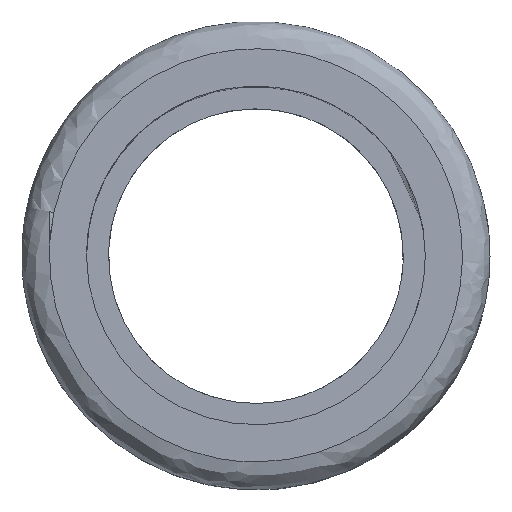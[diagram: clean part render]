
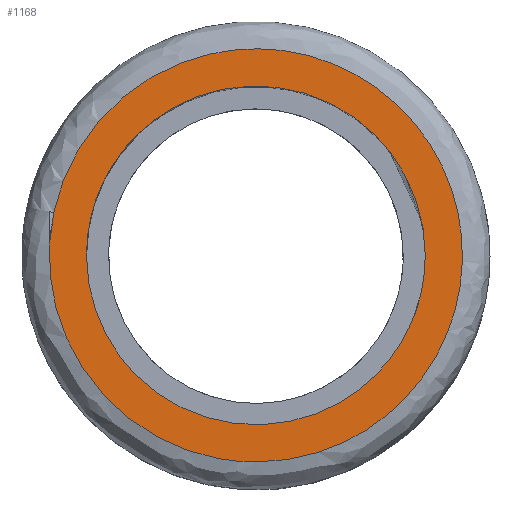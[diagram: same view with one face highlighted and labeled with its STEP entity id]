
A CAD part, top view. The second image highlights one B-rep face of the part: STEP entity #1168.
In plain terms, the highlighted free-form (B-spline) face has degree [1, 1] with [2, 2] control points.
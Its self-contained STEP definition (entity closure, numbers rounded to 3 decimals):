
#613 = CARTESIAN_POINT ('', (-6.147, 0.017, 0.998));
#614 = VERTEX_POINT ('', #613);
#615 = CARTESIAN_POINT ('', (6.02, -1.269, 1.007));
#616 = VERTEX_POINT ('', #615);
#617 = CARTESIAN_POINT ('', (-6.147, 0.017, 0.998));
#618 = CARTESIAN_POINT ('', (-6.169, -10.935, 1.04));
#619 = CARTESIAN_POINT ('', (4.077, -10.448, 1.041));
#620 = CARTESIAN_POINT ('', (6.02, -1.269, 1.007));
#621 = (
   BOUNDED_CURVE ()
   B_SPLINE_CURVE (3, (#617, #618, #619, #620), .UNSPECIFIED., .F., .U.)
   B_SPLINE_CURVE_WITH_KNOTS ((4, 4), (0., 1.), .UNSPECIFIED.)
   CURVE ()
   GEOMETRIC_REPRESENTATION_ITEM ()
   RATIONAL_B_SPLINE_CURVE ((0.83, 0.339, 0.396, 1.))
   REPRESENTATION_ITEM ('')
);
#622 = EDGE_CURVE ('', #614, #616, #621, .T.);
#633 = CARTESIAN_POINT ('', (6.153, -0.008, 1.002));
#634 = VERTEX_POINT ('', #633);
#635 = CARTESIAN_POINT ('', (6.02, -1.269, 1.007));
#636 = CARTESIAN_POINT ('', (6.105, -0.867, 1.005));
#637 = CARTESIAN_POINT ('', (6.152, -0.445, 1.004));
#638 = CARTESIAN_POINT ('', (6.153, -0.008, 1.002));
#639 = (
   BOUNDED_CURVE ()
   B_SPLINE_CURVE (3, (#635, #636, #637, #638), .UNSPECIFIED., .F., .U.)
   B_SPLINE_CURVE_WITH_KNOTS ((4, 4), (0., 1.), .UNSPECIFIED.)
   CURVE ()
   GEOMETRIC_REPRESENTATION_ITEM ()
   RATIONAL_B_SPLINE_CURVE ((1., 0.937, 0.881, 0.83))
   REPRESENTATION_ITEM ('')
);
#640 = EDGE_CURVE ('', #616, #634, #639, .T.);
#642 = CARTESIAN_POINT ('', (6.153, -0.008, 1.002));
#643 = CARTESIAN_POINT ('', (6.175, 10.944, 0.96));
#644 = CARTESIAN_POINT ('', (-4.071, 10.457, 0.959));
#645 = CARTESIAN_POINT ('', (-6.014, 1.278, 0.993));
#646 = CARTESIAN_POINT ('', (-6.099, 0.876, 0.995));
#647 = CARTESIAN_POINT ('', (-6.146, 0.454, 0.996));
#648 = CARTESIAN_POINT ('', (-6.147, 0.017, 0.998));
#649 = (
   BOUNDED_CURVE ()
   B_SPLINE_CURVE (3, (#642, #643, #644, #645, #646, #647, #648), .UNSPECIFIED., .F., .U.)
   B_SPLINE_CURVE_WITH_KNOTS ((4, 3, 4), (0., 0.906, 1.), .UNSPECIFIED.)
   CURVE ()
   GEOMETRIC_REPRESENTATION_ITEM ()
   RATIONAL_B_SPLINE_CURVE ((0.83, 0.339, 0.396, 1., 0.937, 0.881, 0.83))
   REPRESENTATION_ITEM ('')
);
#650 = EDGE_CURVE ('', #634, #614, #649, .T.);
#1041 = CARTESIAN_POINT ('', (-7.335, 1.557, 0.992));
#1042 = VERTEX_POINT ('', #1041);
#1043 = CARTESIAN_POINT ('', (-0.012, -7.496, 1.029));
#1044 = VERTEX_POINT ('', #1043);
#1045 = CARTESIAN_POINT ('', (-7.336, 1.558, 0.992));
#1046 = CARTESIAN_POINT ('', (-7.446, 1.036, 0.994));
#1047 = CARTESIAN_POINT ('', (-7.5, 0.504, 0.996));
#1048 = CARTESIAN_POINT ('', (-7.497, -0.041, 0.998));
#1049 = CARTESIAN_POINT ('', (-7.494, -0.58, 1.));
#1050 = CARTESIAN_POINT ('', (-7.435, -1.11, 1.002));
#1051 = CARTESIAN_POINT ('', (-7.318, -1.63, 1.004));
#1052 = CARTESIAN_POINT ('', (-7.198, -2.166, 1.006));
#1053 = CARTESIAN_POINT ('', (-7.02, -2.686, 1.008));
#1054 = CARTESIAN_POINT ('', (-6.784, -3.189, 1.01));
#1055 = CARTESIAN_POINT ('', (-6.538, -3.715, 1.012));
#1056 = CARTESIAN_POINT ('', (-6.234, -4.205, 1.014));
#1057 = CARTESIAN_POINT ('', (-5.873, -4.658, 1.016));
#1058 = CARTESIAN_POINT ('', (-5.506, -5.118, 1.018));
#1059 = CARTESIAN_POINT ('', (-5.094, -5.529, 1.019));
#1060 = CARTESIAN_POINT ('', (-4.637, -5.89, 1.021));
#1061 = CARTESIAN_POINT ('', (-4.183, -6.248, 1.022));
#1062 = CARTESIAN_POINT ('', (-3.691, -6.55, 1.024));
#1063 = CARTESIAN_POINT ('', (-3.161, -6.796, 1.025));
#1064 = CARTESIAN_POINT ('', (-2.16, -7.26, 1.027));
#1065 = CARTESIAN_POINT ('', (-1.11, -7.493, 1.028));
#1066 = CARTESIAN_POINT ('', (-0.012, -7.496, 1.029));
#1067 = B_SPLINE_CURVE_WITH_KNOTS ('', 3, (#1045, #1046, #1047, #1048, #1049, #1050, #1051, #1052, #1053, #1054, #1055, #1056, #1057, #1058, #1059, #1060, #1061, #1062, #1063, #1064, #1065, #1066), .UNSPECIFIED., .F., .U., (4, 3, 3, 3, 3, 3, 3, 4), (0., 0.125, 0.25, 0.375, 0.5, 0.625, 0.75, 1.), .UNSPECIFIED.);
#1068 = EDGE_CURVE ('', #1042, #1044, #1067, .T.);
#1084 = CARTESIAN_POINT ('', (0.018, 7.504, 0.971));
#1085 = VERTEX_POINT ('', #1084);
#1086 = CARTESIAN_POINT ('', (-7.335, 1.557, 0.992));
#1087 = CARTESIAN_POINT ('', (-6.673, 4.684, 0.98));
#1088 = CARTESIAN_POINT ('', (-4.16, 7.513, 0.97));
#1089 = CARTESIAN_POINT ('', (0.018, 7.504, 0.971));
#1090 = (
   BOUNDED_CURVE ()
   B_SPLINE_CURVE (3, (#1086, #1087, #1088, #1089), .UNSPECIFIED., .F., .U.)
   B_SPLINE_CURVE_WITH_KNOTS ((4, 4), (0., 1.), .UNSPECIFIED.)
   CURVE ()
   GEOMETRIC_REPRESENTATION_ITEM ()
   RATIONAL_B_SPLINE_CURVE ((0.957, 0.671, 0.513, 0.483))
   REPRESENTATION_ITEM ('')
);
#1091 = EDGE_CURVE ('', #1042, #1085, #1090, .T.);
#1093 = CARTESIAN_POINT ('', (-0.012, -7.496, 1.029));
#1094 = CARTESIAN_POINT ('', (0.94, -7.497, 1.029));
#1095 = CARTESIAN_POINT ('', (1.86, -7.324, 1.029));
#1096 = CARTESIAN_POINT ('', (2.75, -6.974, 1.027));
#1097 = CARTESIAN_POINT ('', (3.71, -6.597, 1.026));
#1098 = CARTESIAN_POINT ('', (4.559, -6.042, 1.025));
#1099 = CARTESIAN_POINT ('', (5.296, -5.309, 1.022));
#1100 = CARTESIAN_POINT ('', (6.027, -4.582, 1.019));
#1101 = CARTESIAN_POINT ('', (6.586, -3.735, 1.016));
#1102 = CARTESIAN_POINT ('', (6.971, -2.77, 1.013));
#1103 = CARTESIAN_POINT ('', (7.323, -1.888, 1.01));
#1104 = CARTESIAN_POINT ('', (7.5, -0.968, 1.006));
#1105 = CARTESIAN_POINT ('', (7.503, -0.011, 1.003));
#1106 = CARTESIAN_POINT ('', (7.505, 0.94, 0.999));
#1107 = CARTESIAN_POINT ('', (7.332, 1.86, 0.995));
#1108 = CARTESIAN_POINT ('', (6.982, 2.751, 0.992));
#1109 = CARTESIAN_POINT ('', (6.605, 3.712, 0.988));
#1110 = CARTESIAN_POINT ('', (6.05, 4.56, 0.985));
#1111 = CARTESIAN_POINT ('', (5.317, 5.297, 0.982));
#1112 = CARTESIAN_POINT ('', (4.589, 6.029, 0.979));
#1113 = CARTESIAN_POINT ('', (3.743, 6.587, 0.976));
#1114 = CARTESIAN_POINT ('', (2.778, 6.972, 0.974));
#1115 = CARTESIAN_POINT ('', (1.893, 7.325, 0.973));
#1116 = CARTESIAN_POINT ('', (0.973, 7.502, 0.972));
#1117 = CARTESIAN_POINT ('', (0.018, 7.504, 0.971));
#1118 = B_SPLINE_CURVE_WITH_KNOTS ('', 3, (#1093, #1094, #1095, #1096, #1097, #1098, #1099, #1100, #1101, #1102, #1103, #1104, #1105, #1106, #1107, #1108, #1109, #1110, #1111, #1112, #1113, #1114, #1115, #1116, #1117), .UNSPECIFIED., .F., .U., (4, 3, 3, 3, 3, 3, 3, 3, 4), (0., 0.125, 0.25, 0.375, 0.5, 0.625, 0.75, 0.875, 1.), .UNSPECIFIED.);
#1119 = EDGE_CURVE ('', #1044, #1085, #1118, .T.);
#1153 = ORIENTED_EDGE ('', *, *, #1091, .F.);
#1154 = ORIENTED_EDGE ('', *, *, #1068, .T.);
#1155 = ORIENTED_EDGE ('', *, *, #1119, .T.);
#1156 = EDGE_LOOP ('', (#1153, #1154, #1155));
#1157 = FACE_OUTER_BOUND ('', #1156, .T.);
#1158 = ORIENTED_EDGE ('', *, *, #622, .F.);
#1159 = ORIENTED_EDGE ('', *, *, #650, .F.);
#1160 = ORIENTED_EDGE ('', *, *, #640, .F.);
#1161 = EDGE_LOOP ('', (#1158, #1159, #1160));
#1162 = FACE_BOUND ('', #1161, .T.);
#1163 = CARTESIAN_POINT ('', (-7.603, -7.57, 1.026));
#1164 = CARTESIAN_POINT ('', (-7.573, 7.61, 0.969));
#1165 = CARTESIAN_POINT ('', (7.578, -7.601, 1.031));
#1166 = CARTESIAN_POINT ('', (7.609, 7.579, 0.974));
#1167 = B_SPLINE_SURFACE_WITH_KNOTS ('', 1, 1, ((#1163, #1164), (#1165, #1166)), .UNSPECIFIED., .F., .F., .U., (2, 2), (2, 2), (0., 1.), (0., 1.), .UNSPECIFIED.);
#1168 = ADVANCED_FACE ('', (#1157, #1162), #1167, .T.);
